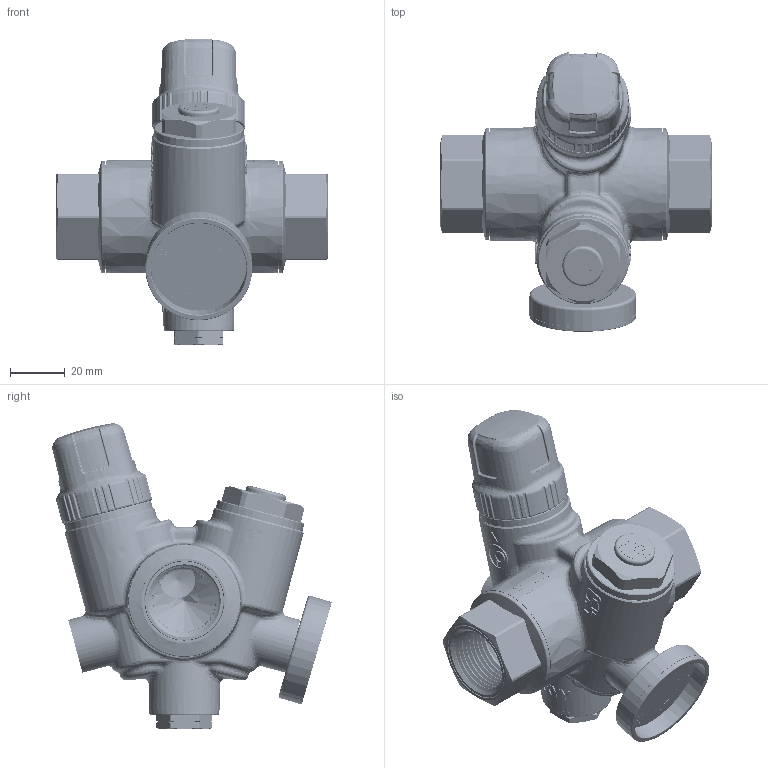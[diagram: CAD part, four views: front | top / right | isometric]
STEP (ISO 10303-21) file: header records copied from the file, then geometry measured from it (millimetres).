
FILE_DESCRIPTION(('Open CASCADE Model'),'2;1');
FILE_NAME('Open CASCADE Shape Model','2022-01-26T10:52:37',('Author'),( 'Open CASCADE'),'Open CASCADE STEP processor 7.3','Open CASCADE 7.3' ,'Unknown');
FILE_SCHEMA(('AUTOMOTIVE_DESIGN { 1 0 10303 214 1 1 1 1 }'));
Length unit declared in the file: millimetre
Products named in the file (24): Open CASCADE STEP translator 7.3 1; Open CASCADE STEP translator 7.3 1.1; Open CASCADE STEP translator 7.3 1.2; Open CASCADE STEP translator 7.3 1.3; Open CASCADE STEP translator 7.3 1.4; Open CASCADE STEP translator 7.3 1.5; Open CASCADE STEP translator 7.3 1.6; Open CASCADE STEP translator 7.3 1.7; Open CASCADE STEP translator 7.3 1.8; Open CASCADE STEP translator 7.3 1.9; Open CASCADE STEP translator 7.3 1.10; Open CASCADE STEP translator 7.3 1.11; Open CASCADE STEP translator 7.3 1.12; Open CASCADE STEP translator 7.3 1.13; Open CASCADE STEP translator 7.3 1.14; Open CASCADE STEP translator 7.3 1.15; Open CASCADE STEP translator 7.3 1.16; Open CASCADE STEP translator 7.3 1.17; Open CASCADE STEP translator 7.3 1.18; Open CASCADE STEP translator 7.3 1.19; Open CASCADE STEP translator 7.3 1.20; Open CASCADE STEP translator 7.3 1.21; Open CASCADE STEP translator 7.3 1.22; Open CASCADE STEP translator 7.3 1.23
Assembly tree (23 placements, depth 2):
  Open CASCADE STEP translator 7.3 1
    Open CASCADE STEP translator 7.3 1.1
    Open CASCADE STEP translator 7.3 1.2
    Open CASCADE STEP translator 7.3 1.3
    Open CASCADE STEP translator 7.3 1.4
    Open CASCADE STEP translator 7.3 1.5
    Open CASCADE STEP translator 7.3 1.6
    Open CASCADE STEP translator 7.3 1.7
    Open CASCADE STEP translator 7.3 1.8
    Open CASCADE STEP translator 7.3 1.9
    Open CASCADE STEP translator 7.3 1.10
    Open CASCADE STEP translator 7.3 1.11
    Open CASCADE STEP translator 7.3 1.12
    Open CASCADE STEP translator 7.3 1.13
    Open CASCADE STEP translator 7.3 1.14
    Open CASCADE STEP translator 7.3 1.15
    Open CASCADE STEP translator 7.3 1.16
    Open CASCADE STEP translator 7.3 1.17
    Open CASCADE STEP translator 7.3 1.18
    Open CASCADE STEP translator 7.3 1.19
    Open CASCADE STEP translator 7.3 1.20
    Open CASCADE STEP translator 7.3 1.21
    Open CASCADE STEP translator 7.3 1.22
    Open CASCADE STEP translator 7.3 1.23
Bounding box: 99 x 102.01 x 111.79 mm (x, y, z)
Volume: 140197 mm3; surface area: 97269.8 mm2
Topology: 23 solids, 24 shells, 5485 faces, 14072 edges, 8837 vertices
Faces by surface type: extrusion 1451, plane 1238, cylinder 1141, bspline 696, cone 432, torus 403, sphere 76, revolution 48
Entity records: 591675 total; most frequent: CARTESIAN_POINT 345492, DIRECTION 33184, ORIENTED_EDGE 28112, PCURVE 28112, DEFINITIONAL_REPRESENTATION 28112, B_SPLINE_CURVE_WITH_KNOTS 21583, VECTOR 18623, LINE 17172
